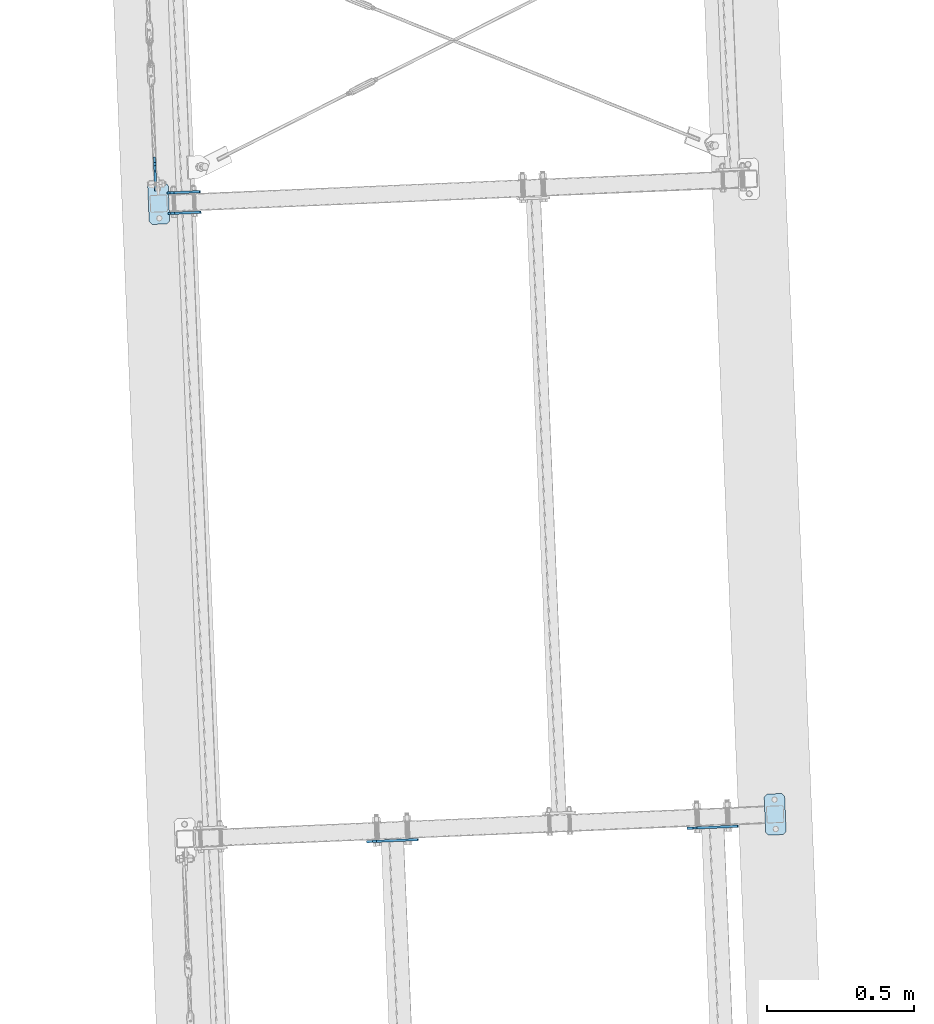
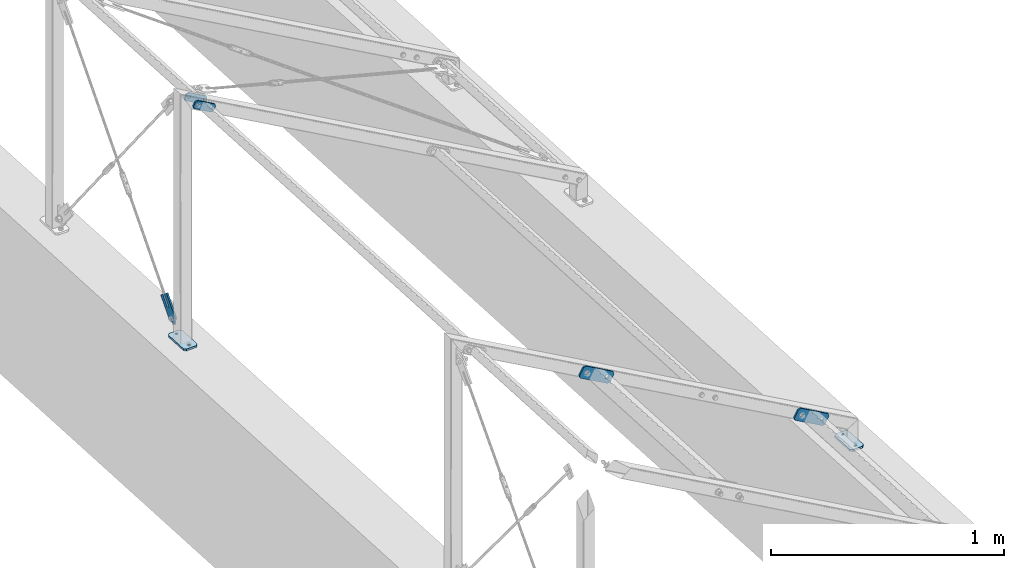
# One storey, part 47 of 288: 7 plates, 40 openings.
"""IFC2X3 building model written with IfcOpenShell, lengths in millimetres."""

from ifc_helpers import new_model, entity, si_unit, converted_unit, point, frame, frame_2d, origin, origin_with_axes, origin_2d_with_axis, place, context, project, spatial, polyline, circle_curve, line_curve, trimmed, segment, composite_curve, circle, outline, extrude, material, layer, layer_set, element, save


model = new_model("IFC2X3")

# Units and contexts
model_context = context("Model", 3, precision=1e-09, world=origin_with_axes())
ifc_project = project(units=[si_unit("LENGTHUNIT", "METRE", prefix="MILLI"), si_unit("AREAUNIT", "SQUARE_METRE"), si_unit("VOLUMEUNIT", "CUBIC_METRE"), converted_unit("PLANEANGLEUNIT", "DEGREE", entity("IfcPlaneAngleMeasure", 0.01745329), si_unit("PLANEANGLEUNIT", "RADIAN"), dimensions=[0, 0, 0, 0, 0, 0, 0])], contexts=[model_context])

# Site, building, storey
site_placement = place(None, origin_with_axes())
site = spatial("IfcSite", under=ifc_project, at=site_placement, Name="Remont ?wietlik?w nad MC w NCPP w Opolu", CompositionType="ELEMENT")
building_placement = place(site_placement, origin_with_axes())
building = spatial("IfcBuilding", under=site, at=building_placement, Name="Konstrukcja 1", CompositionType="ELEMENT")
storey_placement = place(building_placement, origin_with_axes())
storey = spatial("IfcBuildingStorey", under=building, at=storey_placement, Name="Default Storey", CompositionType="ELEMENT", Elevation=0.0)

# Plate, openings
ifc_material = material(Name="S235")
ifc_layer_1 = layer(ifc_material, 8.0)
ifc_layer_set_1 = layer_set([ifc_layer_1], Name="S235")
plate_1_placement = place(None, frame((-526.952511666, 10223.88279068, 1232.679047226), z_axis=(-0.041662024, 0.999131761, 1.7472e-05), x_axis=(0.499566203, 0.020815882, 0.866025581)))
plate_1 = element("IfcPlate", 1, at=plate_1_placement, inside=storey, material=ifc_layer_set_1, Name="-", ObjectType="-", context=model_context, shape_type="SweptSolid", body=[
    extrude(outline(polyline([(0.0, 0.0), (40.0, 0.0), (40.0, 120.0), (0.0, 120.0), (0.0, 0.0)])), origin_with_axes(), (0.0, 0.0, 1.0), 8.0),
])
opening_1_placement = place(plate_1_placement, frame((0.0, 0.0, -0.01), z_axis=(0.0, 0.0, 1.0), x_axis=(1.0, 0.0, 0.0)))
element("IfcOpeningElement", 2, at=opening_1_placement, cuts=plate_1, ObjectType="Opening", context=model_context, shape_type="SweptSolid", body=[
    extrude(outline(composite_curve([segment(trimmed(line_curve((40.0, 0.0), (0.0, 1.0), 10.0), [point((40.0, 0.0))], [point((40.0, 10.0))], True, "CARTESIAN"), True, "CONTINUOUS"), segment(trimmed(circle_curve(frame_2d((30.0, 10.0), x_axis=(-1.0, 0.0)), 10.0), [point((40.0, 10.0))], [point((30.0, 0.0))], False, "CARTESIAN"), True, "CONTINUOUS"), segment(trimmed(line_curve((30.0, 0.0), (1.0, 0.0), 10.0), [point((30.0, 0.0))], [point((40.0, 0.0))], True, "CARTESIAN"), True, "CONTINUOUS")], self_intersect=False)), origin(), (0.0, 0.0, 1.0), 8.02),
])
opening_2_placement = place(plate_1_placement, frame((0.0, 0.0, -0.01), z_axis=(0.0, 0.0, 1.0), x_axis=(1.0, 0.0, 0.0)))
element("IfcOpeningElement", 3, at=opening_2_placement, cuts=plate_1, ObjectType="Opening", context=model_context, shape_type="SweptSolid", body=[
    extrude(outline(composite_curve([segment(trimmed(line_curve((0.0, 0.0), (1.0, 0.0), 10.0), [point((0.0, 0.0))], [point((10.0, 0.0))], True, "CARTESIAN"), True, "CONTINUOUS"), segment(trimmed(circle_curve(frame_2d((10.0, 10.0), x_axis=(-1.0, 0.0)), 10.0), [point((10.0, 0.0))], [point((0.0, 10.0))], False, "CARTESIAN"), True, "CONTINUOUS"), segment(trimmed(line_curve((0.0, 10.0), (0.0, -1.0), 10.0), [point((0.0, 10.0))], [point((0.0, 0.0))], True, "CARTESIAN"), True, "CONTINUOUS")], self_intersect=False)), origin(), (0.0, 0.0, 1.0), 8.02),
])
opening_3_placement = place(plate_1_placement, frame((0.0, 0.0, -0.01), z_axis=(0.0, 0.0, 1.0), x_axis=(1.0, 0.0, 0.0)))
element("IfcOpeningElement", 4, at=opening_3_placement, cuts=plate_1, ObjectType="Opening", context=model_context, shape_type="SweptSolid", body=[
    extrude(outline(composite_curve([segment(trimmed(line_curve((40.0, 120.0), (-1.0, 0.0), 10.0), [point((40.0, 120.0))], [point((30.0, 120.0))], True, "CARTESIAN"), True, "CONTINUOUS"), segment(trimmed(circle_curve(frame_2d((30.0, 110.0), x_axis=(-1.0, 0.0)), 10.0), [point((30.0, 120.0))], [point((40.0, 110.0))], False, "CARTESIAN"), True, "CONTINUOUS"), segment(trimmed(line_curve((40.0, 110.0), (0.0, 1.0), 10.0), [point((40.0, 110.0))], [point((40.0, 120.0))], True, "CARTESIAN"), True, "CONTINUOUS")], self_intersect=False)), origin(), (0.0, 0.0, 1.0), 8.02),
])
opening_4_placement = place(plate_1_placement, frame((0.0, 0.0, -0.01), z_axis=(0.0, 0.0, 1.0), x_axis=(1.0, 0.0, 0.0)))
element("IfcOpeningElement", 5, at=opening_4_placement, cuts=plate_1, ObjectType="Opening", context=model_context, shape_type="SweptSolid", body=[
    extrude(outline(composite_curve([segment(trimmed(line_curve((0.0, 120.0), (0.0, -1.0), 10.0), [point((0.0, 120.0))], [point((0.0, 110.0))], True, "CARTESIAN"), True, "CONTINUOUS"), segment(trimmed(circle_curve(frame_2d((10.0, 110.0), x_axis=(-1.0, 0.0)), 10.0), [point((0.0, 110.0))], [point((10.0, 120.0))], False, "CARTESIAN"), True, "CONTINUOUS"), segment(trimmed(line_curve((10.0, 120.0), (-1.0, 0.0), 10.0), [point((10.0, 120.0))], [point((0.0, 120.0))], True, "CARTESIAN"), True, "CONTINUOUS")], self_intersect=False)), origin(), (0.0, 0.0, 1.0), 8.02),
])
opening_5_placement = place(plate_1_placement, frame((19.999829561, 27.001003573, 8.499903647), z_axis=(-2.0054e-05, 4.2e-07, 1.0), x_axis=(1.0, 0.0, 2.0054e-05)))
element("IfcOpeningElement", 6, at=opening_5_placement, cuts=plate_1, ObjectType="Opening", context=model_context, shape_type="SweptSolid", body=[
    extrude(circle(Radius=7.001, at=frame_2d((-4e-09, -7.001), x_axis=(1.0, 0.0))), origin(), (0.0, 0.0, -1.0), 9.000033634),
])
opening_6_placement = place(plate_1_placement, frame((19.999829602, 107.001003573, 8.499870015), z_axis=(-2.0054e-05, 4.2e-07, 1.0), x_axis=(1.0, 0.0, 2.0054e-05)))
element("IfcOpeningElement", 7, at=opening_6_placement, cuts=plate_1, ObjectType="Opening", context=model_context, shape_type="SweptSolid", body=[
    extrude(circle(Radius=7.001, at=frame_2d((-4e-09, -7.001), x_axis=(1.0, 0.0))), origin(), (0.0, 0.0, -1.0), 9.000033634),
])

plate_2_placement = place(None, frame((-529.868853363, 10293.822013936, 1232.68027024), z_axis=(-0.041662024, 0.999131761, 1.7472e-05), x_axis=(0.499566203, 0.020815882, 0.866025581)))
plate_2 = element("IfcPlate", 8, at=plate_2_placement, inside=storey, material=ifc_layer_set_1, Name="-", ObjectType="-", context=model_context, shape_type="SweptSolid", body=[
    extrude(outline(polyline([(0.0, 0.0), (40.0, 0.0), (40.0, 120.0), (0.0, 120.0), (0.0, 0.0)])), origin_with_axes(), (0.0, 0.0, 1.0), 8.0),
])
opening_7_placement = place(plate_2_placement, frame((0.0, 0.0, -0.01), z_axis=(0.0, 0.0, 1.0), x_axis=(1.0, 0.0, 0.0)))
element("IfcOpeningElement", 9, at=opening_7_placement, cuts=plate_2, ObjectType="Opening", context=model_context, shape_type="SweptSolid", body=[
    extrude(outline(composite_curve([segment(trimmed(line_curve((40.0, 0.0), (0.0, 1.0), 10.0), [point((40.0, 0.0))], [point((40.0, 10.0))], True, "CARTESIAN"), True, "CONTINUOUS"), segment(trimmed(circle_curve(frame_2d((30.0, 10.0), x_axis=(-1.0, 0.0)), 10.0), [point((40.0, 10.0))], [point((30.0, 0.0))], False, "CARTESIAN"), True, "CONTINUOUS"), segment(trimmed(line_curve((30.0, 0.0), (1.0, 0.0), 10.0), [point((30.0, 0.0))], [point((40.0, 0.0))], True, "CARTESIAN"), True, "CONTINUOUS")], self_intersect=False)), origin(), (0.0, 0.0, 1.0), 8.02),
])
opening_8_placement = place(plate_2_placement, frame((0.0, 0.0, -0.01), z_axis=(0.0, 0.0, 1.0), x_axis=(1.0, 0.0, 0.0)))
element("IfcOpeningElement", 10, at=opening_8_placement, cuts=plate_2, ObjectType="Opening", context=model_context, shape_type="SweptSolid", body=[
    extrude(outline(composite_curve([segment(trimmed(line_curve((0.0, 0.0), (1.0, 0.0), 10.0), [point((0.0, 0.0))], [point((10.0, 0.0))], True, "CARTESIAN"), True, "CONTINUOUS"), segment(trimmed(circle_curve(frame_2d((10.0, 10.0), x_axis=(-1.0, 0.0)), 10.0), [point((10.0, 0.0))], [point((0.0, 10.0))], False, "CARTESIAN"), True, "CONTINUOUS"), segment(trimmed(line_curve((0.0, 10.0), (0.0, -1.0), 10.0), [point((0.0, 10.0))], [point((0.0, 0.0))], True, "CARTESIAN"), True, "CONTINUOUS")], self_intersect=False)), origin(), (0.0, 0.0, 1.0), 8.02),
])
opening_9_placement = place(plate_2_placement, frame((0.0, 0.0, -0.01), z_axis=(0.0, 0.0, 1.0), x_axis=(1.0, 0.0, 0.0)))
element("IfcOpeningElement", 11, at=opening_9_placement, cuts=plate_2, ObjectType="Opening", context=model_context, shape_type="SweptSolid", body=[
    extrude(outline(composite_curve([segment(trimmed(line_curve((40.0, 120.0), (-1.0, 0.0), 10.0), [point((40.0, 120.0))], [point((30.0, 120.0))], True, "CARTESIAN"), True, "CONTINUOUS"), segment(trimmed(circle_curve(frame_2d((30.0, 110.0), x_axis=(-1.0, 0.0)), 10.0), [point((30.0, 120.0))], [point((40.0, 110.0))], False, "CARTESIAN"), True, "CONTINUOUS"), segment(trimmed(line_curve((40.0, 110.0), (0.0, 1.0), 10.0), [point((40.0, 110.0))], [point((40.0, 120.0))], True, "CARTESIAN"), True, "CONTINUOUS")], self_intersect=False)), origin(), (0.0, 0.0, 1.0), 8.02),
])
opening_10_placement = place(plate_2_placement, frame((0.0, 0.0, -0.01), z_axis=(0.0, 0.0, 1.0), x_axis=(1.0, 0.0, 0.0)))
element("IfcOpeningElement", 12, at=opening_10_placement, cuts=plate_2, ObjectType="Opening", context=model_context, shape_type="SweptSolid", body=[
    extrude(outline(composite_curve([segment(trimmed(line_curve((0.0, 120.0), (0.0, -1.0), 10.0), [point((0.0, 120.0))], [point((0.0, 110.0))], True, "CARTESIAN"), True, "CONTINUOUS"), segment(trimmed(circle_curve(frame_2d((10.0, 110.0), x_axis=(-1.0, 0.0)), 10.0), [point((0.0, 110.0))], [point((10.0, 120.0))], False, "CARTESIAN"), True, "CONTINUOUS"), segment(trimmed(line_curve((10.0, 120.0), (-1.0, 0.0), 10.0), [point((10.0, 120.0))], [point((0.0, 120.0))], True, "CARTESIAN"), True, "CONTINUOUS")], self_intersect=False)), origin(), (0.0, 0.0, 1.0), 8.02),
])
opening_11_placement = place(plate_2_placement, frame((19.998425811, 27.001033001, 8.499903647), z_axis=(-2.0054e-05, 4.2e-07, 1.0), x_axis=(1.0, 0.0, 2.0054e-05)))
element("IfcOpeningElement", 13, at=opening_11_placement, cuts=plate_2, ObjectType="Opening", context=model_context, shape_type="SweptSolid", body=[
    extrude(circle(Radius=7.001, at=frame_2d((-4e-09, -7.001), x_axis=(1.0, 0.0))), origin(), (0.0, 0.0, -1.0), 9.000033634),
])
opening_12_placement = place(plate_2_placement, frame((19.998425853, 107.001033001, 8.499870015), z_axis=(-2.0054e-05, 4.2e-07, 1.0), x_axis=(1.0, 0.0, 2.0054e-05)))
element("IfcOpeningElement", 14, at=opening_12_placement, cuts=plate_2, ObjectType="Opening", context=model_context, shape_type="SweptSolid", body=[
    extrude(circle(Radius=7.001, at=frame_2d((-4e-09, -7.001), x_axis=(1.0, 0.0))), origin(), (0.0, 0.0, -1.0), 9.000033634),
])

plate_3_placement = place(None, frame((1240.35871868, 8131.324804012, 251.984216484), z_axis=(0.041671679, -0.999131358, 1.05e-07), x_axis=(0.865273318, 0.036088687, -0.499999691)))
plate_3 = element("IfcPlate", 15, at=plate_3_placement, inside=storey, material=ifc_layer_set_1, Name="-", ObjectType="-", context=model_context, shape_type="SweptSolid", body=[
    extrude(outline(polyline([(0.0, 0.0), (179.999999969, 0.0), (179.999999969, 60.000000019), (0.0, 60.000000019), (0.0, 0.0)])), origin_with_axes(), (0.0, 0.0, -1.0), 8.0),
])
opening_13_placement = place(plate_3_placement, frame((0.0, 0.0, 0.01), z_axis=(0.0, 0.0, 1.0), x_axis=(1.0, 0.0, 0.0)))
element("IfcOpeningElement", 16, at=opening_13_placement, cuts=plate_3, ObjectType="Opening", context=model_context, shape_type="SweptSolid", body=[
    extrude(outline(composite_curve([segment(trimmed(line_curve((0.0, 0.0), (1.0, 0.0), 10.0), [point((0.0, 0.0))], [point((10.0, 0.0))], True, "CARTESIAN"), True, "CONTINUOUS"), segment(trimmed(circle_curve(frame_2d((10.0, 10.0), x_axis=(-1.0, 0.0)), 10.0), [point((10.0, 0.0))], [point((0.0, 10.0))], False, "CARTESIAN"), True, "CONTINUOUS"), segment(trimmed(line_curve((0.0, 10.0), (0.0, -1.0), 10.0), [point((0.0, 10.0))], [point((0.0, 0.0))], True, "CARTESIAN"), True, "CONTINUOUS")], self_intersect=False)), origin(), (0.0, 0.0, -1.0), 8.02),
])
opening_14_placement = place(plate_3_placement, frame((0.0, 60.000000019, 0.01), z_axis=(0.0, 0.0, 1.0), x_axis=(0.0, -1.0, 0.0)))
element("IfcOpeningElement", 17, at=opening_14_placement, cuts=plate_3, ObjectType="Opening", context=model_context, shape_type="SweptSolid", body=[
    extrude(outline(composite_curve([segment(trimmed(line_curve((0.0, 0.0), (1.0, 0.0), 10.0), [point((0.0, 0.0))], [point((10.0, 0.0))], True, "CARTESIAN"), True, "CONTINUOUS"), segment(trimmed(circle_curve(frame_2d((10.0, 10.0), x_axis=(-1.0, 0.0)), 10.0), [point((10.0, 0.0))], [point((0.0, 10.0))], False, "CARTESIAN"), True, "CONTINUOUS"), segment(trimmed(line_curve((0.0, 10.0), (0.0, -1.0), 10.0), [point((0.0, 10.0))], [point((0.0, 0.0))], True, "CARTESIAN"), True, "CONTINUOUS")], self_intersect=False)), origin(), (0.0, 0.0, -1.0), 8.02),
])
opening_15_placement = place(plate_3_placement, frame((179.999999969, 60.000000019, 0.01), z_axis=(0.0, 0.0, 1.0), x_axis=(-1.0, 0.0, 0.0)))
element("IfcOpeningElement", 18, at=opening_15_placement, cuts=plate_3, ObjectType="Opening", context=model_context, shape_type="SweptSolid", body=[
    extrude(outline(composite_curve([segment(trimmed(line_curve((0.0, 0.0), (1.0, 0.0), 10.0), [point((0.0, 0.0))], [point((10.0, 0.0))], True, "CARTESIAN"), True, "CONTINUOUS"), segment(trimmed(circle_curve(frame_2d((10.0, 10.0), x_axis=(-1.0, 0.0)), 10.0), [point((10.0, 0.0))], [point((0.0, 10.0))], False, "CARTESIAN"), True, "CONTINUOUS"), segment(trimmed(line_curve((0.0, 10.0), (0.0, -1.0), 10.0), [point((0.0, 10.0))], [point((0.0, 0.0))], True, "CARTESIAN"), True, "CONTINUOUS")], self_intersect=False)), origin(), (0.0, 0.0, -1.0), 8.02),
])
opening_16_placement = place(plate_3_placement, frame((179.999999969, 0.0, 0.01), z_axis=(0.0, 0.0, 1.0), x_axis=(0.0, 1.0, 0.0)))
element("IfcOpeningElement", 19, at=opening_16_placement, cuts=plate_3, ObjectType="Opening", context=model_context, shape_type="SweptSolid", body=[
    extrude(outline(composite_curve([segment(trimmed(line_curve((0.0, 0.0), (1.0, 0.0), 10.0), [point((0.0, 0.0))], [point((10.0, 0.0))], True, "CARTESIAN"), True, "CONTINUOUS"), segment(trimmed(circle_curve(frame_2d((10.0, 10.0), x_axis=(-1.0, 0.0)), 10.0), [point((10.0, 0.0))], [point((0.0, 10.0))], False, "CARTESIAN"), True, "CONTINUOUS"), segment(trimmed(line_curve((0.0, 10.0), (0.0, -1.0), 10.0), [point((0.0, 10.0))], [point((0.0, 0.0))], True, "CARTESIAN"), True, "CONTINUOUS")], self_intersect=False)), origin(), (0.0, 0.0, -1.0), 8.02),
])
opening_17_placement = place(plate_3_placement, frame((89.999999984, 30.000000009, -8.5), z_axis=(0.0, 0.0, 1.0), x_axis=(-1.0, 0.0, 0.0)))
element("IfcOpeningElement", 20, at=opening_17_placement, cuts=plate_3, ObjectType="Opening", context=model_context, shape_type="SweptSolid", body=[
    extrude(circle(Radius=9.001, at=frame_2d((60.0, 0.0), x_axis=(1.0, 0.0))), origin(), (0.0, 0.0, 1.0), 9.0),
])
opening_18_placement = place(plate_3_placement, frame((89.999999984, 30.000000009, -8.5), z_axis=(0.0, 0.0, 1.0), x_axis=(-1.0, 0.0, 0.0)))
element("IfcOpeningElement", 21, at=opening_18_placement, cuts=plate_3, ObjectType="Opening", context=model_context, shape_type="SweptSolid", body=[
    extrude(circle(Radius=9.001, at=frame_2d((-60.0, 0.0), x_axis=(1.0, 0.0))), origin(), (0.0, 0.0, 1.0), 9.0),
])

ifc_layer_2 = layer(ifc_material, 10.0)
ifc_layer_set_2 = layer_set([ifc_layer_2], Name="S235")
plate_4_placement = place(None, frame((-590.996444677, 10330.305992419, 10.000000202), z_axis=(0.0, 0.0, -1.0), x_axis=(0.999131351, 0.041671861, 0.0)))
plate_4 = element("IfcPlate", 22, at=plate_4_placement, inside=storey, material=ifc_layer_set_2, Name="Baseplate", ObjectType="Baseplate", context=model_context, shape_type="SweptSolid", body=[
    extrude(outline(polyline([(0.0, 0.0), (70.0, 0.0), (70.0, 140.0), (0.0, 140.0), (0.0, 0.0)])), origin_with_axes(), (0.0, 0.0, 1.0), 10.0),
])
opening_19_placement = place(plate_4_placement, frame((0.0, 0.0, -0.01), z_axis=(0.0, 0.0, 1.0), x_axis=(1.0, 0.0, 0.0)))
element("IfcOpeningElement", 23, at=opening_19_placement, cuts=plate_4, ObjectType="Opening", context=model_context, shape_type="SweptSolid", body=[
    extrude(outline(composite_curve([segment(trimmed(line_curve((70.0, 0.0), (0.0, 1.0), 10.0), [point((70.0, 0.0))], [point((70.0, 10.0))], True, "CARTESIAN"), True, "CONTINUOUS"), segment(trimmed(circle_curve(frame_2d((60.0, 10.0), x_axis=(-1.0, 0.0)), 10.0), [point((70.0, 10.0))], [point((60.0, 0.0))], False, "CARTESIAN"), True, "CONTINUOUS"), segment(trimmed(line_curve((60.0, 0.0), (1.0, 0.0), 10.0), [point((60.0, 0.0))], [point((70.0, 0.0))], True, "CARTESIAN"), True, "CONTINUOUS")], self_intersect=False)), origin(), (0.0, 0.0, 1.0), 10.02),
])
opening_20_placement = place(plate_4_placement, frame((0.0, 0.0, -0.01), z_axis=(0.0, 0.0, 1.0), x_axis=(1.0, 0.0, 0.0)))
element("IfcOpeningElement", 24, at=opening_20_placement, cuts=plate_4, ObjectType="Opening", context=model_context, shape_type="SweptSolid", body=[
    extrude(outline(composite_curve([segment(trimmed(line_curve((0.0, 0.0), (1.0, 0.0), 10.0), [point((0.0, 0.0))], [point((10.0, 0.0))], True, "CARTESIAN"), True, "CONTINUOUS"), segment(trimmed(circle_curve(frame_2d((10.0, 10.0), x_axis=(-1.0, 0.0)), 10.0), [point((10.0, 0.0))], [point((0.0, 10.0))], False, "CARTESIAN"), True, "CONTINUOUS"), segment(trimmed(line_curve((0.0, 10.0), (0.0, -1.0), 10.0), [point((0.0, 10.0))], [point((0.0, 0.0))], True, "CARTESIAN"), True, "CONTINUOUS")], self_intersect=False)), origin(), (0.0, 0.0, 1.0), 10.02),
])
opening_21_placement = place(plate_4_placement, frame((0.0, 0.0, -0.01), z_axis=(0.0, 0.0, 1.0), x_axis=(1.0, 0.0, 0.0)))
element("IfcOpeningElement", 25, at=opening_21_placement, cuts=plate_4, ObjectType="Opening", context=model_context, shape_type="SweptSolid", body=[
    extrude(outline(composite_curve([segment(trimmed(line_curve((70.0, 140.0), (-1.0, 0.0), 10.0), [point((70.0, 140.0))], [point((60.0, 140.0))], True, "CARTESIAN"), True, "CONTINUOUS"), segment(trimmed(circle_curve(frame_2d((60.0, 130.0), x_axis=(-1.0, 0.0)), 10.0), [point((60.0, 140.0))], [point((70.0, 130.0))], False, "CARTESIAN"), True, "CONTINUOUS"), segment(trimmed(line_curve((70.0, 130.0), (0.0, 1.0), 10.0), [point((70.0, 130.0))], [point((70.0, 140.0))], True, "CARTESIAN"), True, "CONTINUOUS")], self_intersect=False)), origin(), (0.0, 0.0, 1.0), 10.02),
])
opening_22_placement = place(plate_4_placement, frame((0.0, 0.0, -0.01), z_axis=(0.0, 0.0, 1.0), x_axis=(1.0, 0.0, 0.0)))
element("IfcOpeningElement", 26, at=opening_22_placement, cuts=plate_4, ObjectType="Opening", context=model_context, shape_type="SweptSolid", body=[
    extrude(outline(composite_curve([segment(trimmed(line_curve((0.0, 140.0), (0.0, -1.0), 10.0), [point((0.0, 140.0))], [point((0.0, 130.0))], True, "CARTESIAN"), True, "CONTINUOUS"), segment(trimmed(circle_curve(frame_2d((10.0, 130.0), x_axis=(-1.0, 0.0)), 10.0), [point((0.0, 130.0))], [point((10.0, 140.0))], False, "CARTESIAN"), True, "CONTINUOUS"), segment(trimmed(line_curve((10.0, 140.0), (-1.0, 0.0), 10.0), [point((10.0, 140.0))], [point((0.0, 140.0))], True, "CARTESIAN"), True, "CONTINUOUS")], self_intersect=False)), origin(), (0.0, 0.0, 1.0), 10.02),
])
opening_23_placement = place(plate_4_placement, frame((35.0, 120.0, 10.5), z_axis=(0.0, 0.0, -1.0), x_axis=(1.0, 0.0, 0.0)))
element("IfcOpeningElement", 27, at=opening_23_placement, cuts=plate_4, ObjectType="Opening", context=model_context, shape_type="SweptSolid", body=[
    extrude(circle(Radius=6.001, at=origin_2d_with_axis()), origin(), (0.0, 0.0, 1.0), 11.0),
])
opening_24_placement = place(plate_4_placement, frame((35.0, 20.0, 10.5), z_axis=(0.0, 0.0, -1.0), x_axis=(1.0, 0.0, 0.0)))
element("IfcOpeningElement", 28, at=opening_24_placement, cuts=plate_4, ObjectType="Opening", context=model_context, shape_type="SweptSolid", body=[
    extrude(circle(Radius=6.001, at=origin_2d_with_axis()), origin(), (0.0, 0.0, 1.0), 11.0),
])

plate_5_placement = place(None, frame((1582.981203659, 8114.587966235, 10.000000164), z_axis=(0.0, 0.0, -1.0), x_axis=(-0.999131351, -0.041671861, 0.0)))
plate_5 = element("IfcPlate", 29, at=plate_5_placement, inside=storey, material=ifc_layer_set_2, Name="Baseplate", ObjectType="Baseplate", context=model_context, shape_type="SweptSolid", body=[
    extrude(outline(polyline([(0.0, 0.0), (70.0, 0.0), (70.0, 140.0), (0.0, 140.0), (0.0, 0.0)])), origin_with_axes(), (0.0, 0.0, 1.0), 10.0),
])
opening_25_placement = place(plate_5_placement, frame((0.0, 0.0, -0.01), z_axis=(0.0, 0.0, 1.0), x_axis=(1.0, 0.0, 0.0)))
element("IfcOpeningElement", 30, at=opening_25_placement, cuts=plate_5, ObjectType="Opening", context=model_context, shape_type="SweptSolid", body=[
    extrude(outline(composite_curve([segment(trimmed(line_curve((0.0, 140.0), (0.0, -1.0), 10.0), [point((0.0, 140.0))], [point((0.0, 130.0))], True, "CARTESIAN"), True, "CONTINUOUS"), segment(trimmed(circle_curve(frame_2d((10.0, 130.0), x_axis=(-1.0, 0.0)), 10.0), [point((0.0, 130.0))], [point((10.0, 140.0))], False, "CARTESIAN"), True, "CONTINUOUS"), segment(trimmed(line_curve((10.0, 140.0), (-1.0, 0.0), 10.0), [point((10.0, 140.0))], [point((0.0, 140.0))], True, "CARTESIAN"), True, "CONTINUOUS")], self_intersect=False)), origin(), (0.0, 0.0, 1.0), 10.02),
])
opening_26_placement = place(plate_5_placement, frame((0.0, 0.0, -0.01), z_axis=(0.0, 0.0, 1.0), x_axis=(1.0, 0.0, 0.0)))
element("IfcOpeningElement", 31, at=opening_26_placement, cuts=plate_5, ObjectType="Opening", context=model_context, shape_type="SweptSolid", body=[
    extrude(outline(composite_curve([segment(trimmed(line_curve((70.0, 140.0), (-1.0, 0.0), 10.0), [point((70.0, 140.0))], [point((60.0, 140.0))], True, "CARTESIAN"), True, "CONTINUOUS"), segment(trimmed(circle_curve(frame_2d((60.0, 130.0), x_axis=(-1.0, 0.0)), 10.0), [point((60.0, 140.0))], [point((70.0, 130.0))], False, "CARTESIAN"), True, "CONTINUOUS"), segment(trimmed(line_curve((70.0, 130.0), (0.0, 1.0), 10.0), [point((70.0, 130.0))], [point((70.0, 140.0))], True, "CARTESIAN"), True, "CONTINUOUS")], self_intersect=False)), origin(), (0.0, 0.0, 1.0), 10.02),
])
opening_27_placement = place(plate_5_placement, frame((0.0, 0.0, -0.01), z_axis=(0.0, 0.0, 1.0), x_axis=(1.0, 0.0, 0.0)))
element("IfcOpeningElement", 32, at=opening_27_placement, cuts=plate_5, ObjectType="Opening", context=model_context, shape_type="SweptSolid", body=[
    extrude(outline(composite_curve([segment(trimmed(line_curve((0.0, 0.0), (1.0, 0.0), 10.0), [point((0.0, 0.0))], [point((10.0, 0.0))], True, "CARTESIAN"), True, "CONTINUOUS"), segment(trimmed(circle_curve(frame_2d((10.0, 10.0), x_axis=(-1.0, 0.0)), 10.0), [point((10.0, 0.0))], [point((0.0, 10.0))], False, "CARTESIAN"), True, "CONTINUOUS"), segment(trimmed(line_curve((0.0, 10.0), (0.0, -1.0), 10.0), [point((0.0, 10.0))], [point((0.0, 0.0))], True, "CARTESIAN"), True, "CONTINUOUS")], self_intersect=False)), origin(), (0.0, 0.0, 1.0), 10.02),
])
opening_28_placement = place(plate_5_placement, frame((0.0, 0.0, -0.01), z_axis=(0.0, 0.0, 1.0), x_axis=(1.0, 0.0, 0.0)))
element("IfcOpeningElement", 33, at=opening_28_placement, cuts=plate_5, ObjectType="Opening", context=model_context, shape_type="SweptSolid", body=[
    extrude(outline(composite_curve([segment(trimmed(line_curve((70.0, 0.0), (0.0, 1.0), 10.0), [point((70.0, 0.0))], [point((70.0, 10.0))], True, "CARTESIAN"), True, "CONTINUOUS"), segment(trimmed(circle_curve(frame_2d((60.0, 10.0), x_axis=(-1.0, 0.0)), 10.0), [point((70.0, 10.0))], [point((60.0, 0.0))], False, "CARTESIAN"), True, "CONTINUOUS"), segment(trimmed(line_curve((60.0, 0.0), (1.0, 0.0), 10.0), [point((60.0, 0.0))], [point((70.0, 0.0))], True, "CARTESIAN"), True, "CONTINUOUS")], self_intersect=False)), origin(), (0.0, 0.0, 1.0), 10.02),
])
opening_29_placement = place(plate_5_placement, frame((35.0, 120.0, 10.5), z_axis=(0.0, 0.0, -1.0), x_axis=(1.0, 0.0, 0.0)))
element("IfcOpeningElement", 34, at=opening_29_placement, cuts=plate_5, ObjectType="Opening", context=model_context, shape_type="SweptSolid", body=[
    extrude(circle(Radius=6.001, at=origin_2d_with_axis()), origin(), (0.0, 0.0, 1.0), 11.0),
])
opening_30_placement = place(plate_5_placement, frame((35.0, 20.0, 10.5), z_axis=(0.0, 0.0, -1.0), x_axis=(1.0, 0.0, 0.0)))
element("IfcOpeningElement", 35, at=opening_30_placement, cuts=plate_5, ObjectType="Opening", context=model_context, shape_type="SweptSolid", body=[
    extrude(circle(Radius=6.001, at=origin_2d_with_axis()), origin(), (0.0, 0.0, 1.0), 11.0),
])

plate_6_placement = place(None, frame((180.098119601, 8087.103094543, 933.962416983), z_axis=(-0.041671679, 0.999131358, -1.05e-07), x_axis=(0.865273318, 0.036088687, -0.499999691)))
plate_6 = element("IfcPlate", 36, at=plate_6_placement, inside=storey, material=ifc_layer_set_1, Name="-", ObjectType="-", context=model_context, shape_type="SweptSolid", body=[
    extrude(outline(polyline([(0.0, 0.0), (179.999999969, 0.0), (179.999999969, 60.000000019), (0.0, 60.000000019), (0.0, 0.0)])), origin_with_axes(), (0.0, 0.0, 1.0), 8.0),
])
opening_31_placement = place(plate_6_placement, frame((39.000999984, 30.000000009, 8.5), z_axis=(0.0, 0.0, 1.0), x_axis=(1.0, 0.0, 0.0)))
element("IfcOpeningElement", 37, at=opening_31_placement, cuts=plate_6, ObjectType="Opening", context=model_context, shape_type="SweptSolid", body=[
    extrude(circle(Radius=9.001, at=frame_2d((-9.001, 0.0), x_axis=(1.0, 0.0))), origin(), (0.0, 0.0, -1.0), 9.0),
])
opening_32_placement = place(plate_6_placement, frame((159.000999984, 30.000000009, 8.5), z_axis=(0.0, 0.0, 1.0), x_axis=(1.0, 0.0, 0.0)))
element("IfcOpeningElement", 38, at=opening_32_placement, cuts=plate_6, ObjectType="Opening", context=model_context, shape_type="SweptSolid", body=[
    extrude(circle(Radius=9.001, at=frame_2d((-9.001, 0.0), x_axis=(1.0, 0.0))), origin(), (0.0, 0.0, -1.0), 9.0),
])
opening_33_placement = place(plate_6_placement, frame((0.0, 0.0, -0.01), z_axis=(0.0, 0.0, 1.0), x_axis=(1.0, 0.0, 0.0)))
element("IfcOpeningElement", 39, at=opening_33_placement, cuts=plate_6, ObjectType="Opening", context=model_context, shape_type="SweptSolid", body=[
    extrude(outline(composite_curve([segment(trimmed(line_curve((0.0, 0.0), (1.0, 0.0), 10.0), [point((0.0, 0.0))], [point((10.0, 0.0))], True, "CARTESIAN"), True, "CONTINUOUS"), segment(trimmed(circle_curve(frame_2d((10.0, 10.0), x_axis=(-1.0, 0.0)), 10.0), [point((10.0, 0.0))], [point((0.0, 10.0))], False, "CARTESIAN"), True, "CONTINUOUS"), segment(trimmed(line_curve((0.0, 10.0), (0.0, -1.0), 10.0), [point((0.0, 10.0))], [point((0.0, 0.0))], True, "CARTESIAN"), True, "CONTINUOUS")], self_intersect=False)), origin(), (0.0, 0.0, 1.0), 8.02),
])
opening_34_placement = place(plate_6_placement, frame((0.0, 0.0, -0.01), z_axis=(0.0, 0.0, 1.0), x_axis=(1.0, 0.0, 0.0)))
element("IfcOpeningElement", 40, at=opening_34_placement, cuts=plate_6, ObjectType="Opening", context=model_context, shape_type="SweptSolid", body=[
    extrude(outline(composite_curve([segment(trimmed(line_curve((0.0, 60.000000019), (0.0, -1.0), 10.0), [point((0.0, 60.000000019))], [point((0.0, 50.000000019))], True, "CARTESIAN"), True, "CONTINUOUS"), segment(trimmed(circle_curve(frame_2d((10.0, 50.000000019), x_axis=(-1.0, 0.0)), 10.0), [point((0.0, 50.000000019))], [point((10.0, 60.000000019))], False, "CARTESIAN"), True, "CONTINUOUS"), segment(trimmed(line_curve((10.0, 60.000000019), (-1.0, 0.0), 10.0), [point((10.0, 60.000000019))], [point((0.0, 60.000000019))], True, "CARTESIAN"), True, "CONTINUOUS")], self_intersect=False)), origin(), (0.0, 0.0, 1.0), 8.02),
])
opening_35_placement = place(plate_6_placement, frame((0.0, 0.0, -0.01), z_axis=(0.0, 0.0, 1.0), x_axis=(1.0, 0.0, 0.0)))
element("IfcOpeningElement", 41, at=opening_35_placement, cuts=plate_6, ObjectType="Opening", context=model_context, shape_type="SweptSolid", body=[
    extrude(outline(composite_curve([segment(trimmed(line_curve((179.999999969, 60.000000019), (-1.0, 0.0), 10.0), [point((179.999999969, 60.000000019))], [point((169.999999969, 60.000000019))], True, "CARTESIAN"), True, "CONTINUOUS"), segment(trimmed(circle_curve(frame_2d((169.999999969, 50.000000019), x_axis=(-1.0, 0.0)), 10.0), [point((169.999999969, 60.000000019))], [point((179.999999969, 50.000000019))], False, "CARTESIAN"), True, "CONTINUOUS"), segment(trimmed(line_curve((179.999999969, 50.000000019), (0.0, 1.0), 10.0), [point((179.999999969, 50.000000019))], [point((179.999999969, 60.000000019))], True, "CARTESIAN"), True, "CONTINUOUS")], self_intersect=False)), origin(), (0.0, 0.0, 1.0), 8.02),
])
opening_36_placement = place(plate_6_placement, frame((0.0, 0.0, -0.01), z_axis=(0.0, 0.0, 1.0), x_axis=(1.0, 0.0, 0.0)))
element("IfcOpeningElement", 42, at=opening_36_placement, cuts=plate_6, ObjectType="Opening", context=model_context, shape_type="SweptSolid", body=[
    extrude(outline(composite_curve([segment(trimmed(line_curve((179.999999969, 0.0), (0.0, 1.0), 10.0), [point((179.999999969, 0.0))], [point((179.999999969, 10.0))], True, "CARTESIAN"), True, "CONTINUOUS"), segment(trimmed(circle_curve(frame_2d((169.999999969, 10.0), x_axis=(-1.0, 0.0)), 10.0), [point((179.999999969, 10.0))], [point((169.999999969, 0.0))], False, "CARTESIAN"), True, "CONTINUOUS"), segment(trimmed(line_curve((169.999999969, 0.0), (1.0, 0.0), 10.0), [point((169.999999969, 0.0))], [point((179.999999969, 0.0))], True, "CARTESIAN"), True, "CONTINUOUS")], self_intersect=False)), origin(), (0.0, 0.0, 1.0), 8.02),
])

plate_7_placement = place(None, frame((-571.705084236, 10419.704375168, 153.505508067), z_axis=(0.999131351, 0.041671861, 0.0), x_axis=(0.03279022, -0.786183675, 0.617122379)))
plate_7 = element("IfcPlate", 43, at=plate_7_placement, inside=storey, material=ifc_layer_set_1, Name="Tab_Plate#1", ObjectType="Tab_Plate#1", context=model_context, shape_type="SweptSolid", body=[
    extrude(outline(polyline([(0.0, 0.0), (60.0, 0.0), (60.0, 140.0), (0.0, 140.0), (0.0, 0.0)])), origin_with_axes(), (0.0, 0.0, 1.0), 8.0),
])
opening_37_placement = place(plate_7_placement, frame((0.0, 0.0, -0.01), z_axis=(0.0, 0.0, 1.0), x_axis=(1.0, 0.0, 0.0)))
element("IfcOpeningElement", 44, at=opening_37_placement, cuts=plate_7, ObjectType="Opening", context=model_context, shape_type="SweptSolid", body=[
    extrude(outline(composite_curve([segment(trimmed(line_curve((60.0, 140.0), (-1.0, 0.0), 30.0), [point((60.0, 140.0))], [point((30.0, 140.0))], True, "CARTESIAN"), True, "CONTINUOUS"), segment(trimmed(circle_curve(frame_2d((30.0, 110.0), x_axis=(-1.0, 0.0)), 30.0), [point((30.0, 140.0))], [point((60.0, 110.0))], False, "CARTESIAN"), True, "CONTINUOUS"), segment(trimmed(line_curve((60.0, 110.0), (0.0, 1.0), 30.0), [point((60.0, 110.0))], [point((60.0, 140.0))], True, "CARTESIAN"), True, "CONTINUOUS")], self_intersect=False)), origin(), (0.0, 0.0, 1.0), 8.02),
])
opening_38_placement = place(plate_7_placement, frame((0.0, 0.0, -0.01), z_axis=(0.0, 0.0, 1.0), x_axis=(1.0, 0.0, 0.0)))
element("IfcOpeningElement", 45, at=opening_38_placement, cuts=plate_7, ObjectType="Opening", context=model_context, shape_type="SweptSolid", body=[
    extrude(outline(composite_curve([segment(trimmed(line_curve((0.0, 140.0), (0.0, -1.0), 30.0), [point((0.0, 140.0))], [point((0.0, 110.0))], True, "CARTESIAN"), True, "CONTINUOUS"), segment(trimmed(circle_curve(frame_2d((30.0, 110.0), x_axis=(-1.0, 0.0)), 30.0), [point((0.0, 110.0))], [point((30.0, 140.0))], False, "CARTESIAN"), True, "CONTINUOUS"), segment(trimmed(line_curve((30.0, 140.0), (-1.0, 0.0), 30.0), [point((30.0, 140.0))], [point((0.0, 140.0))], True, "CARTESIAN"), True, "CONTINUOUS")], self_intersect=False)), origin(), (0.0, 0.0, 1.0), 8.02),
])
opening_39_placement = place(plate_7_placement, frame((0.0, 0.0, 8.1), z_axis=(0.0, 0.0, -1.0), x_axis=(0.786867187, 0.617122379, 0.0)))
element("IfcOpeningElement", 46, at=opening_39_placement, cuts=plate_7, ObjectType="Opening", context=model_context, shape_type="SweptSolid", body=[
    extrude(outline(polyline([(55.742240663, -33.80648766), (66.75995501, -25.16554011), (29.114255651, 22.83493201), (18.096541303, 14.19398446), (55.742240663, -33.80648766)])), origin(), (0.0, 0.0, 1.0), 8.2),
])
opening_40_placement = place(plate_7_placement, frame((30.0, 110.0, 8.5), z_axis=(0.0, 0.0, -1.0), x_axis=(0.0, -1.0, 0.0)))
element("IfcOpeningElement", 47, at=opening_40_placement, cuts=plate_7, ObjectType="Opening", context=model_context, shape_type="SweptSolid", body=[
    extrude(circle(Radius=9.001, at=origin_2d_with_axis()), origin(), (0.0, 0.0, 1.0), 9.0),
])

save(model, "model.ifc")
